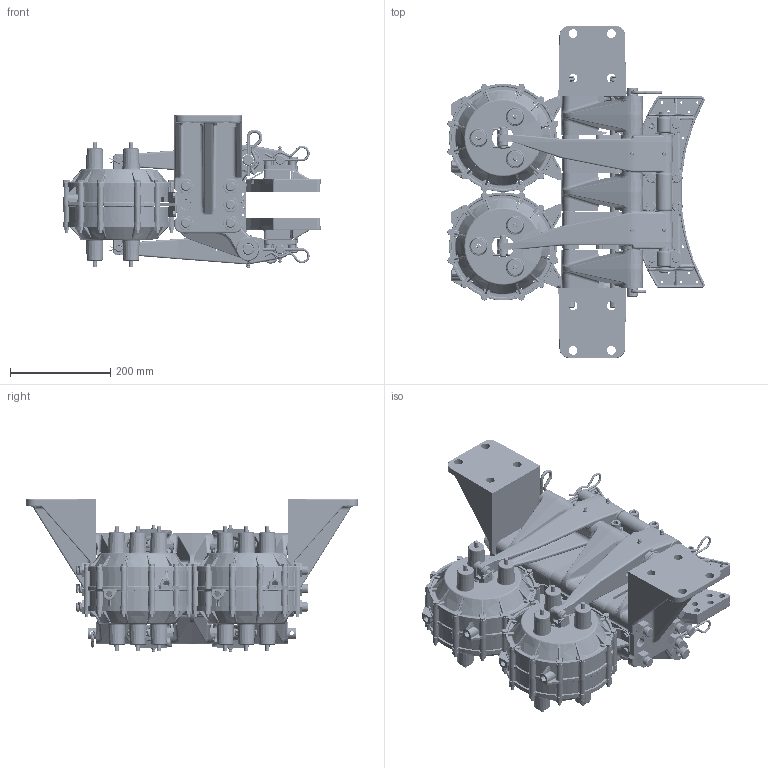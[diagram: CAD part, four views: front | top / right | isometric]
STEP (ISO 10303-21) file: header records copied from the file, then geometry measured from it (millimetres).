
FILE_DESCRIPTION (( 'STEP AP214' ), '1' );
FILE_NAME ('5027-AW.STEP', '2018-09-04T21:52:54', ( 'User' ), ( 'Hewlett-Packard Company' ), 'SwSTEP 2.0', 'SolidWorks 2017', '' );
FILE_SCHEMA (( 'AUTOMOTIVE_DESIGN' ));
Length unit declared in the file: inch
Products named in the file (1): 5027-AW
Bounding box: 512.16 x 660.91 x 304.67 mm (x, y, z)
Surface area: 2076397.3 mm2 (no closed solid volume)
Topology: 0 solids, 314 shells, 6364 faces, 20967 edges, 14083 vertices
Faces by surface type: cylinder 1711, plane 1635, bspline 1217, cone 1033, torus 725, sphere 43
Entity records: 430416 total; most frequent: CARTESIAN_POINT 184836, ORIENTED_EDGE 32318, DIRECTION 31676, EDGE_CURVE 20921, VERTEX_POINT 14083, AXIS2_PLACEMENT_3D 12890, CIRCLE 7742, EDGE_LOOP 7067
